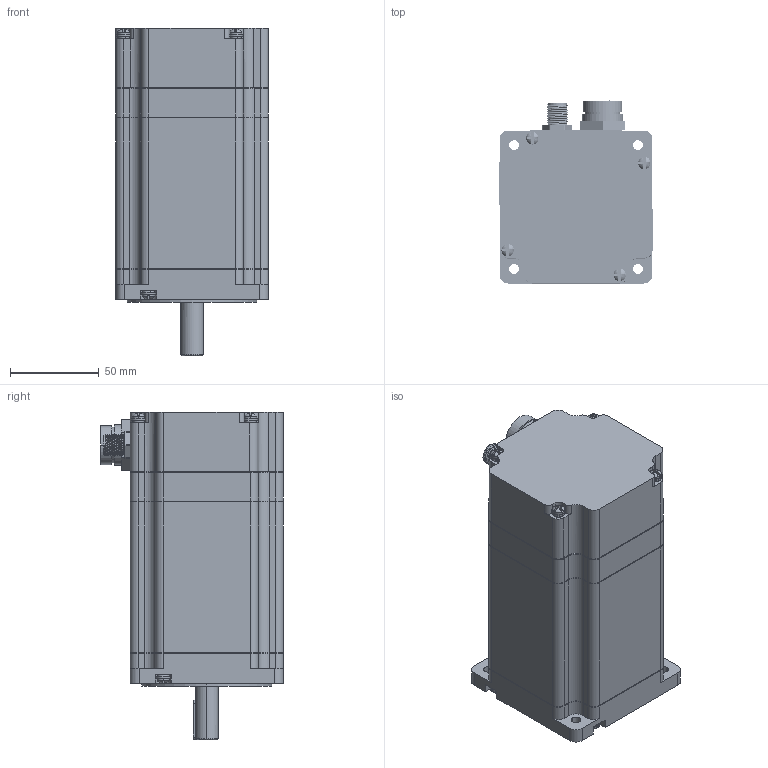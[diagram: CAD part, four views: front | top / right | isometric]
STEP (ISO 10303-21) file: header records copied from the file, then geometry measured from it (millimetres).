
FILE_DESCRIPTION((''),'2;1');
FILE_NAME('MT34HE47040E4M2_ASM','2025-12-19T17:09:39',('jason'),(''),'CREO PARAMETRIC BY PTC INC, 2020414','CREO PARAMETRIC BY PTC INC, 2020414','');
FILE_SCHEMA(('CONFIG_CONTROL_DESIGN'));
Length unit declared in the file: millimetre
Products named in the file (18): FE34-00010_1; OSCP-000001_2; SFA8-00080_2; GT34-00001_2; ST34-845_2; RE34-00022-D_1; RC34-0000X-00_1; CT-000XX-M120001_3; OSCP-00002_1; FWCP-00002_3; M4_2; 317531752223000_2; ASM0003_ASM_1_ASM; GONG-1-SOLID1_1_2_3; _5_1_20001; P347_1_2_ASM; CT-00016-7-8_ASM; MT34HE47040E4M2_ASM
Assembly tree (40 placements, depth 4):
  MT34HE47040E4M2_ASM
    ASM0003_ASM_1_ASM
      FE34-00010_1
      OSCP-000001_2
      SFA8-00080_2
      GT34-00001_2  x3
      ST34-845_2
      RE34-00022-D_1
      RC34-0000X-00_1
      CT-000XX-M120001_3
      OSCP-00002_1  x8
      FWCP-00002_3  x8
      M4_2  x8
      317531752223000_2
    CT-00016-7-8_ASM
      P347_1_2_ASM
        GONG-1-SOLID1_1_2_3
        _5_1_20001
Bounding box: 86.1 x 102.74 x 184.25 mm (x, y, z)
Volume: 479684 mm3; surface area: 225669.5 mm2
Topology: 37 solids, 51 shells, 1652 faces, 4654 edges, 3086 vertices
Faces by surface type: cylinder 1021, plane 436, bspline 120, sphere 28, torus 26, cone 13, extrusion 8
Entity records: 38209 total; most frequent: CARTESIAN_POINT 13228, DIRECTION 5373, ORIENTED_EDGE 5070, EDGE_CURVE 2563, AXIS2_PLACEMENT_3D 2038, VERTEX_POINT 1728, VECTOR 1297, LINE 1296
